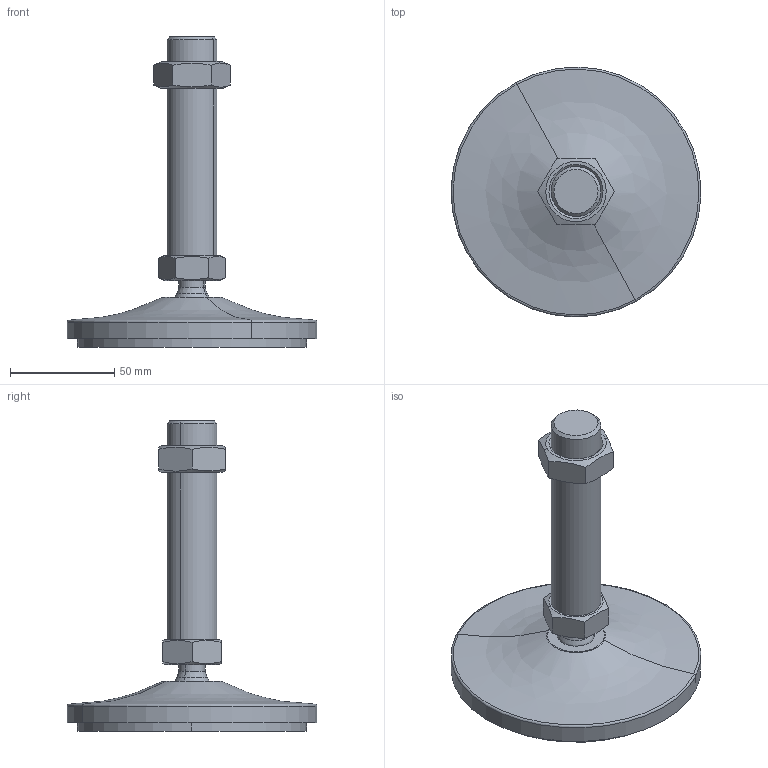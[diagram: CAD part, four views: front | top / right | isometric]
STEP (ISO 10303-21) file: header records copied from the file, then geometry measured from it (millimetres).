
FILE_DESCRIPTION(('CATIA V5 STEP Exchange'),'2;1');
FILE_NAME('C:\Users\ALI OZGUN\Desktop\alhan\saplama2\560122415AV.stp','2017-09-21T10:32:18+00:00',('none'),('none'),'CATIA Version 5 Release 21 GA (IN-10)','CATIA V5 STEP AP203','none');
FILE_SCHEMA(('CONFIG_CONTROL_DESIGN'));
Length unit declared in the file: millimetre
Products named in the file (1): 560122415AV
Bounding box: 119.97 x 119.97 x 149 mm (x, y, z)
Volume: 234073.7 mm3; surface area: 64491.8 mm2
Topology: 4 solids, 4 shells, 64 faces, 142 edges, 87 vertices
Faces by surface type: plane 22, cylinder 16, cone 16, torus 4, revolution 4, sphere 2
Entity records: 1936 total; most frequent: CARTESIAN_POINT 628, ORIENTED_EDGE 280, DIRECTION 197, EDGE_CURVE 140, AXIS2_PLACEMENT_3D 106, VERTEX_POINT 87, EDGE_LOOP 71, ADVANCED_FACE 64
